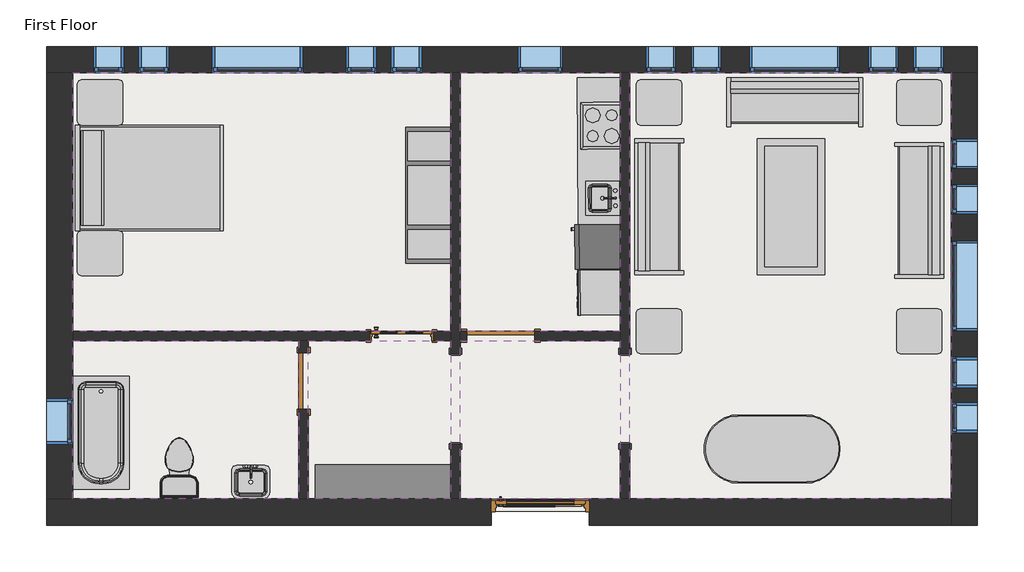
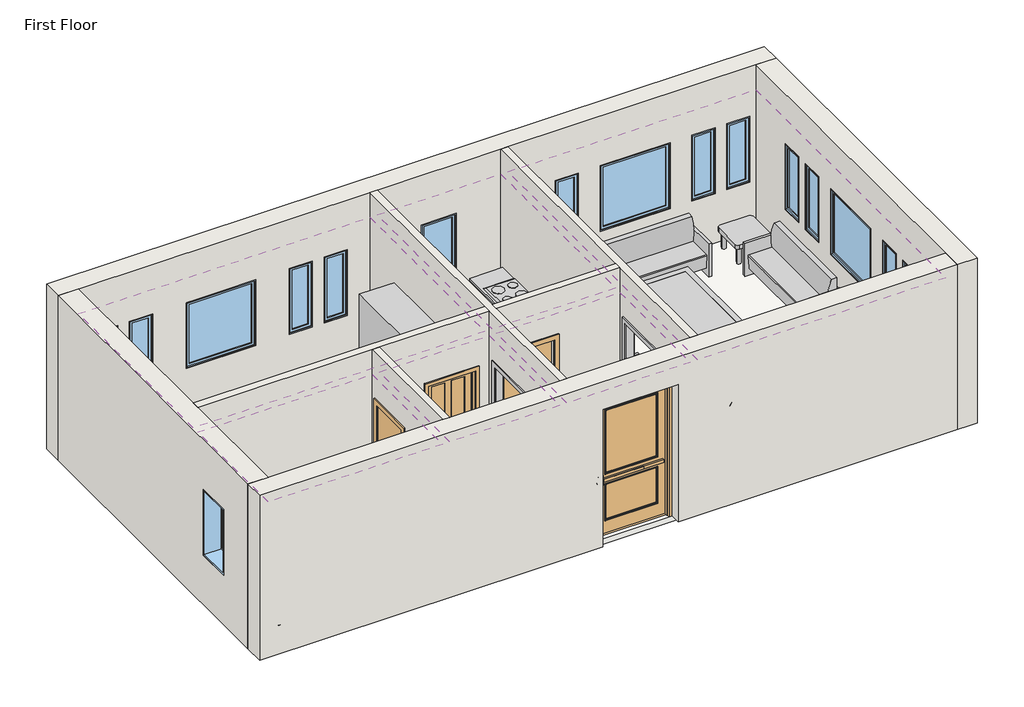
# One storey, incomplete: 17 windows, 15 furniture elements, 8 walls, 6 coverings, 6 proxies, 4 doors, 4 flow terminals, 1 slab.
"""IFC4 building model written with IfcOpenShell, lengths in millimetres."""

from ifc_helpers import new_model, si_unit, frame, origin, place, context, project, spatial, polyline, outline, extrude, faceted_brep, transform, mapped, element, save
from components import proxy_a6faaae8, proxy_45b28599, proxy_a6516e2b, proxy_f44482cc, proxy_c523a7b7, door_c4539963, door_interior_single_4_panel_wood_door_interior_single_4_f9b1e9fa, door_4d6c7550, door_a3eb833a, flow_terminal_871c2e40, flow_terminal_62a433f7, toilet_domestic_3d_toilet_domestic_3d_f7549cf7, toilet_domestic_3d_toilet_domestic_3d_183bbd19, tub_rectangular_3d_tub_rectangular_3d_c56944d8, furniture_096e7f55, furniture_dc2eca4b, furniture_7c473f12, furniture_cf0b6580, furniture_a4ffab56, furniture_cd93a443, furniture_2c34a4f9, furniture_3a588284, window_da97879f, window_d61ef850, window_60baf983, window_6eb97611

model = new_model("IFC4")

# Units and contexts
model_context = context("Model", 3, world=origin())
ifc_project = project(units=[si_unit("LENGTHUNIT", "METRE", prefix="MILLI")], contexts=[model_context])

# Site, building, storey
site = spatial("IfcSite", under=ifc_project)
building = spatial("IfcBuilding", under=site)
storey = spatial("IfcBuildingStorey", under=building, Name="First Floor", Elevation=0.0)

# Proxies
placement = place(None, origin())
proxy_shape = proxy_a6faaae8(model_context)
element("IfcBuildingElementProxy", 1, Name="Cook Top-4 Unit2 : 22\" x 20\"", ObjectType="Cook Top-4 Unit2 : 22\" x 20\"", at=placement, inside=storey, context=model_context, shape_type="MappedRepresentation", body=[
    mapped(proxy_shape, transform((2899.8636904, 5211.0114446, 0.0), x_axis=(0.006017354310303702, -0.9999818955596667, 0.0), y_axis=(0.9999818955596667, 0.006017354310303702, 0.0), z_axis=(0.0, 0.0, 1.0))),
])
proxy_2_shape = proxy_45b28599(model_context)
element("IfcBuildingElementProxy", 2, Name="Dishwasher : 24\" x 24\" x 34\"", ObjectType="Dishwasher : 24\" x 24\" x 34\"", at=placement, inside=storey, context=model_context, shape_type="MappedRepresentation", body=[
    mapped(proxy_2_shape, transform((2619.2452805, 3343.7065262, 0.0), x_axis=(0.006017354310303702, -0.9999818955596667, 0.0), y_axis=(0.9999818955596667, 0.006017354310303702, 0.0), z_axis=(0.0, 0.0, 1.0))),
])
proxy_3_shape = proxy_a6516e2b(model_context)
element("IfcBuildingElementProxy", 3, Name="Kitchenette - Medium : 8'6\"", ObjectType="Kitchenette - Medium : 8'6\"", at=placement, inside=storey, context=model_context, shape_type="MappedRepresentation", body=[
    mapped(proxy_3_shape, transform((3208.4428612, 4583.8946262, 0.0), x_axis=(0.006017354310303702, -0.9999818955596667, 0.0), y_axis=(0.9999818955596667, 0.006017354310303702, 0.0), z_axis=(0.0, 0.0, 1.0))),
])
proxy_4_shape = proxy_f44482cc(model_context)
element("IfcBuildingElementProxy", 4, Name="Passage Opening-Cased : 48\" x 84\"", ObjectType="Passage Opening-Cased : 48\" x 84\"", at=placement, inside=storey, context=model_context, shape_type="MappedRepresentation", body=[
    mapped(proxy_4_shape, transform((3208.4428612, 1537.2944757, 0.0), x_axis=(0.0, 1.0, 0.0), y_axis=(-1.0, 0.0, 0.0), z_axis=(0.0, 0.0, 1.0))),
])
element("IfcBuildingElementProxy", 5, Name="Passage Opening-Cased : 48\" x 84\"", ObjectType="Passage Opening-Cased : 48\" x 84\"", at=placement, inside=storey, context=model_context, shape_type="MappedRepresentation", body=[
    mapped(proxy_4_shape, transform((922.4428612, 1520.9171623, 0.0), x_axis=(0.0, -1.0, 0.0), y_axis=(1.0, 0.0, 0.0), z_axis=(0.0, 0.0, 1.0))),
])
proxy_5_shape = proxy_c523a7b7(model_context)
element("IfcBuildingElementProxy", 6, Name="Refrigerator : 24\" x 25\" LH", ObjectType="Refrigerator : 24\" x 25\" LH", at=placement, inside=storey, context=model_context, shape_type="MappedRepresentation", body=[
    mapped(proxy_5_shape, transform((2864.0355668, 3578.8163041, 0.0), x_axis=(0.006017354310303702, -0.9999818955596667, 0.0), y_axis=(0.9999818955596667, 0.006017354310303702, 0.0), z_axis=(0.0, 0.0, 1.0))),
])

# Coverings
element("IfcCovering", 7, ObjectType="GWB on Mtl. Stud", at=placement, inside=storey, context=model_context, shape_type="SweptSolid", body=[
    extrude(outline(polyline([(-4235.3446388, 5924.893319), (858.9428612, 5924.893319), (858.9428612, 2441.918319), (-4235.3446388, 2441.918319), (-4235.3446388, 5924.893319)])), frame((0.0, 0.0, 2590.8), z_axis=(0.0, 0.0, 1.0), x_axis=(1.0, 0.0, 0.0)), (0.0, 0.0, 1.0), 107.95),
])
element("IfcCovering", 8, ObjectType="GWB on Mtl. Stud", at=placement, inside=storey, context=model_context, shape_type="SweptSolid", body=[
    extrude(outline(polyline([(985.9428612, 2441.918319), (985.9428612, 5924.893319), (3144.9428612, 5924.893319), (3144.9428612, 2441.918319), (985.9428612, 2441.918319)])), frame((0.0, 0.0, 2590.8), z_axis=(0.0, 0.0, 1.0), x_axis=(1.0, 0.0, 0.0)), (0.0, 0.0, 1.0), 107.95),
])
element("IfcCovering", 9, ObjectType="GWB on Mtl. Stud", at=placement, inside=storey, context=model_context, shape_type="SweptSolid", body=[
    extrude(outline(polyline([(3271.9428612, 181.318319), (3271.9428612, 5924.893319), (7604.2303612, 5924.893319), (7604.2303612, 181.318319), (3271.9428612, 181.318319)])), frame((0.0, 0.0, 2590.8), z_axis=(0.0, 0.0, 1.0), x_axis=(1.0, 0.0, 0.0)), (0.0, 0.0, 1.0), 107.95),
])
element("IfcCovering", 10, ObjectType="GWB on Mtl. Stud", at=placement, inside=storey, context=model_context, shape_type="SweptSolid", body=[
    extrude(outline(polyline([(-1187.3446388, 2314.918319), (-1187.3446388, 181.318319), (-4235.3446388, 181.318319), (-4235.3446388, 2314.918319), (-1187.3446388, 2314.918319)])), frame((0.0, 0.0, 2590.8), z_axis=(0.0, 0.0, 1.0), x_axis=(1.0, 0.0, 0.0)), (0.0, 0.0, 1.0), 107.95),
])
element("IfcCovering", 11, ObjectType="GWB on Mtl. Stud", at=placement, inside=storey, context=model_context, shape_type="SweptSolid", body=[
    extrude(outline(polyline([(858.9428612, 181.318319), (-1060.3446388, 181.318319), (-1060.3446388, 2314.918319), (858.9428612, 2314.918319), (858.9428612, 181.318319)])), frame((0.0, 0.0, 2590.8), z_axis=(0.0, 0.0, 1.0), x_axis=(1.0, 0.0, 0.0)), (0.0, 0.0, 1.0), 107.95),
])
element("IfcCovering", 12, ObjectType="GWB on Mtl. Stud", at=placement, inside=storey, context=model_context, shape_type="SweptSolid", body=[
    extrude(outline(polyline([(3144.9428612, 181.318319), (985.9428612, 181.318319), (985.9428612, 2314.918319), (3144.9428612, 2314.918319), (3144.9428612, 181.318319)])), frame((0.0, 0.0, 2590.8), z_axis=(0.0, 0.0, 1.0), x_axis=(1.0, 0.0, 0.0)), (0.0, 0.0, 1.0), 107.95),
])

# Doors
door_shape = door_c4539963(model_context)
element("IfcDoor", 13, ObjectType="Door-Exterior-Single-Two_Lite : 48\" x 96\"", at=placement, inside=storey, context=model_context, shape_type="MappedRepresentation", body=[
    mapped(door_shape, transform((2065.4428612, -1.244181, 0.0), x_axis=(1.0, 0.0, 0.0), y_axis=(0.0, 1.0, 0.0), z_axis=(0.0, 0.0, 1.0))),
])
door_interior_single_4_panel_wood_door_interior_single_4_shape = door_interior_single_4_panel_wood_door_interior_single_4_f9b1e9fa(model_context)
element("IfcDoor", 14, ObjectType="Door-Interior-Single-4_Panel-Wood : Door-Interior-Single-4_Panel-Wood", at=placement, inside=storey, context=model_context, shape_type="MappedRepresentation", body=[
    mapped(door_interior_single_4_panel_wood_door_interior_single_4_shape, transform((196.9553612, 2381.593319, 0.0), x_axis=(1.0, 0.0, 0.0), y_axis=(0.0, 1.0, 0.0), z_axis=(0.0, 0.0, 1.0))),
])
door_2_shape = door_4d6c7550(model_context)
element("IfcDoor", 15, ObjectType="Single-Flush : 30\" x 84\"", at=placement, inside=storey, context=model_context, shape_type="MappedRepresentation", body=[
    mapped(door_2_shape, transform((-1123.8446388, 1768.818319, 0.0), x_axis=(0.0, 1.0, 0.0), y_axis=(-1.0, 0.0, 0.0), z_axis=(0.0, 0.0, 1.0))),
])
door_3_shape = door_a3eb833a(model_context)
element("IfcDoor", 16, ObjectType="Single-Flush : 36\" x 84\"", at=placement, inside=storey, context=model_context, shape_type="MappedRepresentation", body=[
    mapped(door_3_shape, transform((1532.0428612, 2378.418319, 0.0), x_axis=(-1.0, 0.0, 0.0), y_axis=(0.0, -1.0, 0.0), z_axis=(0.0, 0.0, 1.0))),
])

# Flow terminals
flow_terminal_shape = flow_terminal_871c2e40(model_context)
element("IfcFlowTerminal", 17, ObjectType="Sink Kitchen-Island : 18\" x 18\"", at=placement, inside=storey, context=model_context, shape_type="MappedRepresentation", body=[
    mapped(flow_terminal_shape, transform((2903.3082949, 4248.8039924, -14.4), x_axis=(0.006017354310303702, -0.9999818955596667, 0.0), y_axis=(0.9999818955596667, 0.006017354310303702, 0.0), z_axis=(0.0, 0.0, 1.0))),
])
flow_terminal_2_shape = flow_terminal_62a433f7(model_context)
element("IfcFlowTerminal", 18, ObjectType="Sink Vanity-Square : 20\" x 18\"", at=placement, inside=storey, context=model_context, shape_type="MappedRepresentation", body=[
    mapped(flow_terminal_2_shape, transform((-1850.7338794, 458.3729179, 0.0), x_axis=(1.0, 0.0, 0.0), y_axis=(0.0, 1.0, 0.0), z_axis=(0.0, 0.0, 1.0))),
])
toilet_domestic_3d_toilet_domestic_3d_shape = toilet_domestic_3d_toilet_domestic_3d_f7549cf7(model_context)
toilet_domestic_3d_toilet_domestic_3d_2_shape = toilet_domestic_3d_toilet_domestic_3d_183bbd19(model_context)
element("IfcFlowTerminal", 19, ObjectType="Toilet-Domestic-3D : Toilet-Domestic-3D", at=placement, inside=storey, context=model_context, shape_type="MappedRepresentation", body=[
    mapped(toilet_domestic_3d_toilet_domestic_3d_shape, transform((-2800.2446388, 702.018319, 0.0), x_axis=(-1.0, 0.0, 0.0), y_axis=(0.0, -1.0, 0.0), z_axis=(0.0, 0.0, 1.0))),
    mapped(toilet_domestic_3d_toilet_domestic_3d_2_shape, transform((-2800.2446388, 702.018319, 0.0), x_axis=(-1.0, 0.0, 0.0), y_axis=(0.0, -1.0, 0.0), z_axis=(0.0, 0.0, 1.0))),
])
tub_rectangular_3d_tub_rectangular_3d_shape = tub_rectangular_3d_tub_rectangular_3d_c56944d8(model_context)
element("IfcFlowTerminal", 20, ObjectType="Tub-Rectangular-3D : Tub-Rectangular-3D", at=placement, inside=storey, context=model_context, shape_type="MappedRepresentation", body=[
    mapped(tub_rectangular_3d_tub_rectangular_3d_shape, transform((-4411.5571388, 723.3028503, 0.0), x_axis=(0.0, -1.0, 0.0), y_axis=(1.0, 0.0, 0.0), z_axis=(0.0, 0.0, 1.0))),
])

# Furniture
furniture_shape = furniture_096e7f55(model_context)
element("IfcFurniture", 21, ObjectType="Bed-Shaker : Double 56\" x 78\"", at=placement, inside=storey, context=model_context, shape_type="MappedRepresentation", body=[
    mapped(furniture_shape, transform((-4190.1896154, 4526.4534268, 0.0), x_axis=(-0.00030117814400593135, 0.9999999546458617, 0.0), y_axis=(-0.9999999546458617, -0.00030117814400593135, 0.0), z_axis=(0.0, 0.0, 1.0))),
])
furniture_2_shape = furniture_dc2eca4b(model_context)
element("IfcFurniture", 22, ObjectType="Counter Top w Sink Hole : 24\" Depth", at=placement, inside=storey, context=model_context, shape_type="MappedRepresentation", body=[
    mapped(furniture_2_shape, transform((3207.9843388, 4660.0932466, -14.4), x_axis=(0.006017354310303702, -0.9999818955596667, 0.0), y_axis=(0.9999818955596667, 0.006017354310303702, 0.0), z_axis=(0.0, 0.0, 1.0))),
])
furniture_3_shape = furniture_7c473f12(model_context)
element("IfcFurniture", 23, ObjectType="Dresser : 72\" x 60\" x 18\"", at=placement, inside=storey, context=model_context, shape_type="MappedRepresentation", body=[
    mapped(furniture_3_shape, transform((213.736121, 773.0812731, 0.0), x_axis=(1.0, 0.0, 0.0), y_axis=(0.0, 1.0, 0.0), z_axis=(0.0, 0.0, 1.0))),
])
furniture_4_shape = furniture_cf0b6580(model_context)
element("IfcFurniture", 24, ObjectType="Entertainment Center : 72\" x 72\" x 24\"", at=placement, inside=storey, context=model_context, shape_type="MappedRepresentation", body=[
    mapped(furniture_4_shape, transform((147.7428612, 4272.305819, 0.0), x_axis=(0.0, 1.0, 0.0), y_axis=(-1.0, 0.0, 0.0), z_axis=(0.0, 0.0, 1.0))),
])
furniture_5_shape = furniture_a4ffab56(model_context)
element("IfcFurniture", 25, ObjectType="Sofa : 72\"", at=placement, inside=storey, context=model_context, shape_type="MappedRepresentation", body=[
    mapped(furniture_5_shape, transform((5424.0723694, 5377.3466921, 0.0), x_axis=(1.0, 0.0, 0.0), y_axis=(0.0, 1.0, 0.0), z_axis=(0.0, 0.0, 1.0))),
])
element("IfcFurniture", 26, ObjectType="Sofa : 72\"", at=placement, inside=storey, context=model_context, shape_type="MappedRepresentation", body=[
    mapped(furniture_5_shape, transform((3811.7969596, 4049.5353272, 0.0), x_axis=(0.0, 1.0000000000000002, 0.0), y_axis=(-1.0000000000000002, 0.0, 0.0), z_axis=(0.0, 0.0, 1.0))),
])
element("IfcFurniture", 27, ObjectType="Sofa : 72\"", at=placement, inside=storey, context=model_context, shape_type="MappedRepresentation", body=[
    mapped(furniture_5_shape, transform((7024.6887628, 4139.4763108, 0.0), x_axis=(0.0, -1.0, 0.0), y_axis=(1.0, 0.0, 0.0), z_axis=(0.0, 0.0, 1.0))),
])
furniture_6_shape = furniture_cd93a443(model_context)
element("IfcFurniture", 28, ObjectType="Table-Coffee : 36\" x 72\" x 18\"", at=placement, inside=storey, context=model_context, shape_type="MappedRepresentation", body=[
    mapped(furniture_6_shape, transform((5538.853939, 4101.6400523, 0.0), x_axis=(0.0, 1.0, 0.0), y_axis=(-1.0, 0.0, 0.0), z_axis=(0.0, 0.0, 1.0))),
])
furniture_7_shape = furniture_2c34a4f9(model_context)
element("IfcFurniture", 29, ObjectType="Table-Dining Oval : 36\" x 72\"", at=placement, inside=storey, context=model_context, shape_type="MappedRepresentation", body=[
    mapped(furniture_7_shape, transform((5591.4625333, 1212.5166797, 0.0), x_axis=(1.0, 0.0, 0.0), y_axis=(0.0, 1.0, 0.0), z_axis=(0.0, 0.0, 1.0))),
])
furniture_8_shape = furniture_3a588284(model_context)
element("IfcFurniture", 30, ObjectType="Table-End : 24\" x 24\"", at=placement, inside=storey, context=model_context, shape_type="MappedRepresentation", body=[
    mapped(furniture_8_shape, transform((-4175.5782691, 5371.1007905, 0.0), x_axis=(1.0, 0.0, 0.0), y_axis=(0.0, 1.0, 0.0), z_axis=(0.0, 0.0, 1.0))),
])
element("IfcFurniture", 31, ObjectType="Table-End : 24\" x 24\"", at=placement, inside=storey, context=model_context, shape_type="MappedRepresentation", body=[
    mapped(furniture_8_shape, transform((-4175.5782691, 3339.0089188, 0.0), x_axis=(1.0, 0.0, 0.0), y_axis=(0.0, 1.0, 0.0), z_axis=(0.0, 0.0, 1.0))),
])
element("IfcFurniture", 32, ObjectType="Table-End : 24\" x 24\"", at=placement, inside=storey, context=model_context, shape_type="MappedRepresentation", body=[
    mapped(furniture_8_shape, transform((3357.1092309, 5371.1007905, 0.0), x_axis=(1.0, 0.0, 0.0), y_axis=(0.0, 1.0, 0.0), z_axis=(0.0, 0.0, 1.0))),
])
element("IfcFurniture", 33, ObjectType="Table-End : 24\" x 24\"", at=placement, inside=storey, context=model_context, shape_type="MappedRepresentation", body=[
    mapped(furniture_8_shape, transform((3357.1092309, 2289.518319, 0.0), x_axis=(1.0, 0.0, 0.0), y_axis=(0.0, 1.0, 0.0), z_axis=(0.0, 0.0, 1.0))),
])
element("IfcFurniture", 34, ObjectType="Table-End : 24\" x 24\"", at=placement, inside=storey, context=model_context, shape_type="MappedRepresentation", body=[
    mapped(furniture_8_shape, transform((6862.3092309, 2289.518319, 0.0), x_axis=(1.0, 0.0, 0.0), y_axis=(0.0, 1.0, 0.0), z_axis=(0.0, 0.0, 1.0))),
])
element("IfcFurniture", 35, ObjectType="Table-End : 24\" x 24\"", at=placement, inside=storey, context=model_context, shape_type="MappedRepresentation", body=[
    mapped(furniture_8_shape, transform((6862.3092309, 5371.1007905, 0.0), x_axis=(1.0, 0.0, 0.0), y_axis=(0.0, 1.0, 0.0), z_axis=(0.0, 0.0, 1.0))),
])

# Slab
element("IfcSlab", 36, ObjectType="LW Concrete on Metal Deck", at=placement, inside=storey, context=model_context, shape_type="SweptSolid", body=[
    extrude(outline(polyline([(7769.3303612, 6089.993319), (7769.3303612, 16.218319), (-4400.4446388, 16.218319), (-4400.4446388, 6089.993319), (7769.3303612, 6089.993319)])), frame((0.0, 0.0, -104.775), z_axis=(0.0, 0.0, 1.0), x_axis=(1.0, 0.0, 0.0)), (0.0, 0.0, 1.0), 104.775),
])

# Walls
element("IfcWall", 37, ObjectType="Exterior - Brick on Mtl. Stud", at=placement, inside=storey, context=model_context, shape_type="Brep", body=[
    faceted_brep([(-4587.7696388, 5924.893319, 0.0), (-4400.4446388, 5924.893319, 0.0), (-4235.3446388, 5924.893319, 0.0), (858.9428612, 5924.893319, 0.0), (985.9428612, 5924.893319, 0.0), (3144.9428612, 5924.893319, 0.0), (3271.9428612, 5924.893319, 0.0), (7604.2303612, 5924.893319, 0.0), (7769.3303612, 5924.893319, 0.0), (7956.6553612, 5924.893319, 0.0), (7956.6553612, 5924.893319, 3048.0), (7604.2303612, 5924.893319, 3048.0), (3271.9428612, 5924.893319, 3048.0), (3144.9428612, 5924.893319, 3048.0), (985.9428612, 5924.893319, 3048.0), (858.9428612, 5924.893319, 3048.0), (-4235.3446388, 5924.893319, 3048.0), (-4587.7696388, 5924.893319, 3048.0), (1760.6428612, 5924.893319, 2133.6), (2370.2428612, 5924.893319, 2133.6), (2370.2428612, 5924.893319, 914.4), (1760.6428612, 5924.893319, 914.4), (-2354.1571388, 5924.893319, 2133.6), (-1134.9571388, 5924.893319, 2133.6), (-1134.9571388, 5924.893319, 914.4), (-2354.1571388, 5924.893319, 914.4), (4884.8428612, 5924.893319, 2133.6), (6104.0428612, 5924.893319, 2133.6), (6104.0428612, 5924.893319, 914.4), (4884.8428612, 5924.893319, 914.4), (-3954.3571388, 5924.893319, 2133.6), (-3547.9571388, 5924.893319, 2133.6), (-3547.9571388, 5924.893319, 914.4), (-3954.3571388, 5924.893319, 914.4), (-3344.7571388, 5924.893319, 2133.6), (-2938.3571388, 5924.893319, 2133.6), (-2938.3571388, 5924.893319, 914.4), (-3344.7571388, 5924.893319, 914.4), (-144.3571388, 5924.893319, 2133.6), (-144.3571388, 5924.893319, 914.4), (-550.7571388, 5924.893319, 914.4), (-550.7571388, 5924.893319, 2133.6), (465.2428612, 5924.893319, 2133.6), (465.2428612, 5924.893319, 914.4), (58.8428612, 5924.893319, 914.4), (58.8428612, 5924.893319, 2133.6), (4097.4428612, 5924.893319, 2133.6), (4503.8428612, 5924.893319, 2133.6), (4503.8428612, 5924.893319, 914.4), (4097.4428612, 5924.893319, 914.4), (3487.8428612, 5924.893319, 2133.6), (3894.2428612, 5924.893319, 2133.6), (3894.2428612, 5924.893319, 914.4), (3487.8428612, 5924.893319, 914.4), (6891.4428612, 5924.893319, 2133.6), (6891.4428612, 5924.893319, 914.4), (6485.0428612, 5924.893319, 914.4), (6485.0428612, 5924.893319, 2133.6), (7501.0428612, 5924.893319, 2133.6), (7501.0428612, 5924.893319, 914.4), (7094.6428612, 5924.893319, 914.4), (7094.6428612, 5924.893319, 2133.6), (-4587.7696388, 6277.318319, 0.0), (-4587.7696388, 6277.318319, 3048.0), (7956.6553612, 6277.318319, 3048.0), (7956.6553612, 6277.318319, 0.0), (7769.3303612, 6277.318319, 0.0), (-4400.4446388, 6277.318319, 0.0), (1760.6428612, 6277.318319, 2133.6), (1760.6428612, 6277.318319, 914.4), (2370.2428612, 6277.318319, 914.4), (2370.2428612, 6277.318319, 2133.6), (-2354.1571388, 6277.318319, 2133.6), (-2354.1571388, 6277.318319, 914.4), (-1134.9571388, 6277.318319, 914.4), (-1134.9571388, 6277.318319, 2133.6), (4884.8428612, 6277.318319, 2133.6), (4884.8428612, 6277.318319, 914.4), (6104.0428612, 6277.318319, 914.4), (6104.0428612, 6277.318319, 2133.6), (-3954.3571388, 6277.318319, 2133.6), (-3954.3571388, 6277.318319, 914.4), (-3547.9571388, 6277.318319, 914.4), (-3547.9571388, 6277.318319, 2133.6), (-3344.7571388, 6277.318319, 2133.6), (-3344.7571388, 6277.318319, 914.4), (-2938.3571388, 6277.318319, 914.4), (-2938.3571388, 6277.318319, 2133.6), (-144.3571388, 6277.318319, 2133.6), (-550.7571388, 6277.318319, 2133.6), (-550.7571388, 6277.318319, 914.4), (-144.3571388, 6277.318319, 914.4), (465.2428612, 6277.318319, 2133.6), (58.8428612, 6277.318319, 2133.6), (58.8428612, 6277.318319, 914.4), (465.2428612, 6277.318319, 914.4), (4097.4428612, 6277.318319, 2133.6), (4097.4428612, 6277.318319, 914.4), (4503.8428612, 6277.318319, 914.4), (4503.8428612, 6277.318319, 2133.6), (3487.8428612, 6277.318319, 2133.6), (3487.8428612, 6277.318319, 914.4), (3894.2428612, 6277.318319, 914.4), (3894.2428612, 6277.318319, 2133.6), (6891.4428612, 6277.318319, 2133.6), (6485.0428612, 6277.318319, 2133.6), (6485.0428612, 6277.318319, 914.4), (6891.4428612, 6277.318319, 914.4), (7501.0428612, 6277.318319, 2133.6), (7094.6428612, 6277.318319, 2133.6), (7094.6428612, 6277.318319, 914.4), (7501.0428612, 6277.318319, 914.4), (7956.6553612, 6089.993319, 0.0), (-4587.7696388, 6089.993319, 0.0), (-4400.4446388, 6089.993319, 0.0), (7769.3303612, 6089.993319, 0.0)], [[[0, 1, 2, 3, 4, 5, 6, 7, 8, 9, 10, 11, 12, 13, 14, 15, 16, 17], [18, 19, 20, 21], [22, 23, 24, 25], [26, 27, 28, 29], [30, 31, 32, 33], [34, 35, 36, 37], [38, 39, 40, 41], [42, 43, 44, 45], [46, 47, 48, 49], [50, 51, 52, 53], [54, 55, 56, 57], [58, 59, 60, 61]], [[62, 63, 64, 65, 66, 67], [68, 69, 70, 71], [72, 73, 74, 75], [76, 77, 78, 79], [80, 81, 82, 83], [84, 85, 86, 87], [88, 89, 90, 91], [92, 93, 94, 95], [96, 97, 98, 99], [100, 101, 102, 103], [104, 105, 106, 107], [108, 109, 110, 111]], [[17, 16, 15, 14, 13, 12, 11, 10, 64, 63]], [[10, 9, 112, 65, 64]], [[0, 17, 63, 62, 113]], [[69, 68, 18, 21]], [[70, 69, 21, 20]], [[71, 70, 20, 19]], [[68, 71, 19, 18]], [[73, 72, 22, 25]], [[74, 73, 25, 24]], [[75, 74, 24, 23]], [[72, 75, 23, 22]], [[77, 76, 26, 29]], [[78, 77, 29, 28]], [[79, 78, 28, 27]], [[76, 79, 27, 26]], [[81, 80, 30, 33]], [[82, 81, 33, 32]], [[83, 82, 32, 31]], [[80, 83, 31, 30]], [[85, 84, 34, 37]], [[86, 85, 37, 36]], [[87, 86, 36, 35]], [[84, 87, 35, 34]], [[39, 38, 88, 91]], [[40, 39, 91, 90]], [[41, 40, 90, 89]], [[38, 41, 89, 88]], [[43, 42, 92, 95]], [[44, 43, 95, 94]], [[45, 44, 94, 93]], [[42, 45, 93, 92]], [[97, 96, 46, 49]], [[98, 97, 49, 48]], [[99, 98, 48, 47]], [[96, 99, 47, 46]], [[101, 100, 50, 53]], [[102, 101, 53, 52]], [[103, 102, 52, 51]], [[100, 103, 51, 50]], [[55, 54, 104, 107]], [[56, 55, 107, 106]], [[57, 56, 106, 105]], [[54, 57, 105, 104]], [[59, 58, 108, 111]], [[60, 59, 111, 110]], [[61, 60, 110, 109]], [[58, 61, 109, 108]], [[1, 0, 113, 114]], [[113, 62, 67, 114]], [[9, 8, 115, 112]], [[67, 66, 115, 114]], [[66, 65, 112, 115]], [[8, 7, 6, 5, 4, 3, 2, 1, 114, 115]]]),
])
element("IfcWall", 38, ObjectType="Exterior - Brick on Mtl. Stud", at=placement, inside=storey, context=model_context, shape_type="Brep", body=[
    faceted_brep([(7604.2303612, 5924.893319, 0.0), (7604.2303612, 181.318319, 0.0), (7604.2303612, 16.218319, 0.0), (7604.2303612, -171.106681, 0.0), (7604.2303612, -171.106681, 3048.0), (7604.2303612, 181.318319, 3048.0), (7604.2303612, 5924.893319, 3048.0), (7604.2303612, 3662.705819, 2133.6), (7604.2303612, 2443.505819, 2133.6), (7604.2303612, 2443.505819, 914.4), (7604.2303612, 3662.705819, 914.4), (7604.2303612, 4424.705819, 2133.6), (7604.2303612, 4018.305819, 2133.6), (7604.2303612, 4018.305819, 914.4), (7604.2303612, 4424.705819, 914.4), (7604.2303612, 5034.305819, 2133.6), (7604.2303612, 4627.905819, 2133.6), (7604.2303612, 4627.905819, 914.4), (7604.2303612, 5034.305819, 914.4), (7604.2303612, 1681.505819, 2133.6), (7604.2303612, 1681.505819, 914.4), (7604.2303612, 2087.905819, 914.4), (7604.2303612, 2087.905819, 2133.6), (7604.2303612, 1071.905819, 2133.6), (7604.2303612, 1071.905819, 914.4), (7604.2303612, 1478.305819, 914.4), (7604.2303612, 1478.305819, 2133.6), (7956.6553612, 5924.893319, 0.0), (7956.6553612, 5924.893319, 3048.0), (7956.6553612, -171.106681, 3048.0), (7956.6553612, -171.106681, 0.0), (7956.6553612, 16.218319, 0.0), (7956.6553612, 3662.705819, 2133.6), (7956.6553612, 3662.705819, 914.4), (7956.6553612, 2443.505819, 914.4), (7956.6553612, 2443.505819, 2133.6), (7956.6553612, 4424.705819, 2133.6), (7956.6553612, 4424.705819, 914.4), (7956.6553612, 4018.305819, 914.4), (7956.6553612, 4018.305819, 2133.6), (7956.6553612, 5034.305819, 2133.6), (7956.6553612, 5034.305819, 914.4), (7956.6553612, 4627.905819, 914.4), (7956.6553612, 4627.905819, 2133.6), (7956.6553612, 1681.505819, 2133.6), (7956.6553612, 2087.905819, 2133.6), (7956.6553612, 2087.905819, 914.4), (7956.6553612, 1681.505819, 914.4), (7956.6553612, 1071.905819, 2133.6), (7956.6553612, 1478.305819, 2133.6), (7956.6553612, 1478.305819, 914.4), (7956.6553612, 1071.905819, 914.4), (7769.3303612, 5924.893319, 0.0), (7769.3303612, -171.106681, 0.0), (7769.3303612, 16.218319, 0.0)], [[[0, 1, 2, 3, 4, 5, 6], [7, 8, 9, 10], [11, 12, 13, 14], [15, 16, 17, 18], [19, 20, 21, 22], [23, 24, 25, 26]], [[27, 28, 29, 30, 31], [32, 33, 34, 35], [36, 37, 38, 39], [40, 41, 42, 43], [44, 45, 46, 47], [48, 49, 50, 51]], [[6, 5, 4, 29, 28]], [[0, 6, 28, 27, 52]], [[4, 3, 53, 30, 29]], [[33, 32, 7, 10]], [[34, 33, 10, 9]], [[35, 34, 9, 8]], [[32, 35, 8, 7]], [[37, 36, 11, 14]], [[38, 37, 14, 13]], [[39, 38, 13, 12]], [[36, 39, 12, 11]], [[41, 40, 15, 18]], [[42, 41, 18, 17]], [[43, 42, 17, 16]], [[40, 43, 16, 15]], [[20, 19, 44, 47]], [[21, 20, 47, 46]], [[22, 21, 46, 45]], [[19, 22, 45, 44]], [[24, 23, 48, 51]], [[25, 24, 51, 50]], [[26, 25, 50, 49]], [[23, 26, 49, 48]], [[52, 27, 31, 54]], [[3, 2, 54, 53]], [[54, 31, 30, 53]], [[2, 1, 0, 52, 54]]]),
])
element("IfcWall", 39, ObjectType="Exterior - Brick on Mtl. Stud", at=placement, inside=storey, context=model_context, shape_type="Brep", body=[
    faceted_brep([(-4587.7696388, 181.318319, 3048.0), (-4235.3446388, 181.318319, 3048.0), (-1187.3446388, 181.318319, 3048.0), (-1060.3446388, 181.318319, 3048.0), (858.9428612, 181.318319, 3048.0), (985.9428612, 181.318319, 3048.0), (3144.9428612, 181.318319, 3048.0), (3271.9428612, 181.318319, 3048.0), (7604.2303612, 181.318319, 3048.0), (7604.2303612, 181.318319, 0.0), (3271.9428612, 181.318319, 0.0), (3144.9428612, 181.318319, 0.0), (2725.8428612, 181.318319, 0.0), (2725.8428612, 181.318319, 2540.0), (1405.0428612, 181.318319, 2540.0), (1405.0428612, 181.318319, 0.0), (985.9428612, 181.318319, 0.0), (858.9428612, 181.318319, 0.0), (-1060.3446388, 181.318319, 0.0), (-1187.3446388, 181.318319, 0.0), (-4235.3446388, 181.318319, 0.0), (-4587.7696388, 181.318319, 0.0), (7604.2303612, -171.106681, 3048.0), (-4587.7696388, -171.106681, 3048.0), (-4587.7696388, -171.106681, 0.0), (1405.0428612, -171.106681, 0.0), (1405.0428612, -171.106681, 2540.0), (2725.8428612, -171.106681, 2540.0), (2725.8428612, -171.106681, 0.0), (7604.2303612, -171.106681, 0.0)], [[[0, 1, 2, 3, 4, 5, 6, 7, 8, 9, 10, 11, 12, 13, 14, 15, 16, 17, 18, 19, 20, 21]], [[22, 23, 24, 25, 26, 27, 28, 29]], [[9, 29, 28, 12, 11, 10]], [[24, 21, 20, 19, 18, 17, 16, 15, 25]], [[8, 7, 6, 5, 4, 3, 2, 1, 0, 23, 22]], [[9, 8, 22, 29]], [[0, 21, 24, 23]], [[27, 13, 12, 28]], [[13, 27, 26, 14]], [[14, 26, 25, 15]]]),
])
element("IfcWall", 40, ObjectType="Exterior - Brick on Mtl. Stud", at=placement, inside=storey, context=model_context, shape_type="Brep", body=[
    faceted_brep([(-4235.3446388, 181.318319, 0.0), (-4235.3446388, 2314.918319, 0.0), (-4235.3446388, 2441.918319, 0.0), (-4235.3446388, 5924.893319, 0.0), (-4235.3446388, 5924.893319, 3048.0), (-4235.3446388, 2441.918319, 3048.0), (-4235.3446388, 2314.918319, 3048.0), (-4235.3446388, 181.318319, 3048.0), (-4235.3446388, 919.505819, 2133.6), (-4235.3446388, 1529.105819, 2133.6), (-4235.3446388, 1529.105819, 914.4), (-4235.3446388, 919.505819, 914.4), (-4587.7696388, 181.318319, 0.0), (-4587.7696388, 181.318319, 3048.0), (-4587.7696388, 5924.893319, 3048.0), (-4587.7696388, 5924.893319, 0.0), (-4587.7696388, 919.505819, 2133.6), (-4587.7696388, 919.505819, 914.4), (-4587.7696388, 1529.105819, 914.4), (-4587.7696388, 1529.105819, 2133.6), (-4400.4446388, 181.318319, 0.0), (-4400.4446388, 5924.893319, 0.0)], [[[0, 1, 2, 3, 4, 5, 6, 7], [8, 9, 10, 11]], [[12, 13, 14, 15], [16, 17, 18, 19]], [[7, 6, 5, 4, 14, 13]], [[0, 7, 13, 12, 20]], [[4, 3, 21, 15, 14]], [[17, 16, 8, 11]], [[18, 17, 11, 10]], [[19, 18, 10, 9]], [[16, 19, 9, 8]], [[20, 12, 15, 21]], [[3, 2, 1, 0, 20, 21]]]),
])
element("IfcWall", 41, ObjectType="Interior - 5\" Partition (2-hr)", at=placement, inside=storey, context=model_context, shape_type="Brep", body=[
    faceted_brep([(3144.9428612, 5924.893319, 0.0), (3144.9428612, 2441.918319, 0.0), (3144.9428612, 2314.918319, 0.0), (3144.9428612, 2138.705819, 0.0), (3144.9428612, 2138.705819, 2133.6), (3144.9428612, 919.505819, 2133.6), (3144.9428612, 919.505819, 0.0), (3144.9428612, 181.318319, 0.0), (3144.9428612, 181.318319, 3048.0), (3144.9428612, 2314.918319, 3048.0), (3144.9428612, 2441.918319, 3048.0), (3144.9428612, 5924.893319, 3048.0), (3271.9428612, 2138.705819, 2133.6), (3271.9428612, 2138.705819, 0.0), (3271.9428612, 5924.893319, 0.0), (3271.9428612, 5924.893319, 3048.0), (3271.9428612, 181.318319, 3048.0), (3271.9428612, 181.318319, 0.0), (3271.9428612, 919.505819, 0.0), (3271.9428612, 919.505819, 2133.6)], [[[0, 1, 2, 3, 4, 5, 6, 7, 8, 9, 10, 11]], [[12, 13, 14, 15, 16, 17, 18, 19]], [[18, 17, 7, 6]], [[14, 13, 3, 2, 1, 0]], [[11, 10, 9, 8, 16, 15]], [[0, 11, 15, 14]], [[8, 7, 17, 16]], [[6, 5, 19, 18]], [[4, 3, 13, 12]], [[5, 4, 12, 19]]]),
])
element("IfcWall", 42, ObjectType="Interior - 5\" Partition (2-hr)", at=placement, inside=storey, context=model_context, shape_type="Brep", body=[
    faceted_brep([(858.9428612, 919.505819, 2133.6), (858.9428612, 919.505819, 0.0), (858.9428612, 181.318319, 0.0), (858.9428612, 181.318319, 3048.0), (858.9428612, 2314.918319, 3048.0), (858.9428612, 2441.918319, 3048.0), (858.9428612, 5924.893319, 3048.0), (858.9428612, 5924.893319, 0.0), (858.9428612, 2441.918319, 0.0), (858.9428612, 2314.918319, 0.0), (858.9428612, 2138.705819, 0.0), (858.9428612, 2138.705819, 2133.6), (985.9428612, 181.318319, 0.0), (985.9428612, 919.505819, 0.0), (985.9428612, 919.505819, 2133.6), (985.9428612, 2138.705819, 2133.6), (985.9428612, 2138.705819, 0.0), (985.9428612, 2314.918319, 0.0), (985.9428612, 2441.918319, 0.0), (985.9428612, 5924.893319, 0.0), (985.9428612, 5924.893319, 3048.0), (985.9428612, 2441.918319, 3048.0), (985.9428612, 2314.918319, 3048.0), (985.9428612, 181.318319, 3048.0)], [[[0, 1, 2, 3, 4, 5, 6, 7, 8, 9, 10, 11]], [[12, 13, 14, 15, 16, 17, 18, 19, 20, 21, 22, 23]], [[2, 1, 13, 12]], [[10, 9, 8, 7, 19, 18, 17, 16]], [[6, 5, 4, 3, 23, 22, 21, 20]], [[7, 6, 20, 19]], [[3, 2, 12, 23]], [[16, 15, 11, 10]], [[14, 13, 1, 0]], [[15, 14, 0, 11]]]),
])
element("IfcWall", 43, ObjectType="Interior - 5\" Partition (2-hr)", at=placement, inside=storey, context=model_context, shape_type="Brep", body=[
    faceted_brep([(-4235.3446388, 2314.918319, 3048.0), (-4235.3446388, 2314.918319, 0.0), (-1187.3446388, 2314.918319, 0.0), (-1060.3446388, 2314.918319, 0.0), (-234.8446388, 2314.918319, 0.0), (-234.8446388, 2314.918319, 2057.4), (628.7553612, 2314.918319, 2057.4), (628.7553612, 2314.918319, 0.0), (858.9428612, 2314.918319, 0.0), (858.9428612, 2314.918319, 3048.0), (-1060.3446388, 2314.918319, 3048.0), (-1187.3446388, 2314.918319, 3048.0), (-4235.3446388, 2441.918319, 0.0), (-4235.3446388, 2441.918319, 3048.0), (858.9428612, 2441.918319, 3048.0), (858.9428612, 2441.918319, 0.0), (628.7553612, 2441.918319, 0.0), (628.7553612, 2441.918319, 2057.4), (-234.8446388, 2441.918319, 2057.4), (-234.8446388, 2441.918319, 0.0)], [[[0, 1, 2, 3, 4, 5, 6, 7, 8, 9, 10, 11]], [[12, 13, 14, 15, 16, 17, 18, 19]], [[1, 12, 19, 4, 3, 2]], [[7, 16, 15, 8]], [[13, 0, 11, 10, 9, 14]], [[1, 0, 13, 12]], [[9, 8, 15, 14]], [[6, 17, 16, 7]], [[17, 6, 5, 18]], [[18, 5, 4, 19]]]),
    faceted_brep([(3144.9428612, 2314.918319, 0.0), (3144.9428612, 2314.918319, 3048.0), (985.9428612, 2314.918319, 3048.0), (985.9428612, 2314.918319, 0.0), (1074.8428612, 2314.918319, 0.0), (1074.8428612, 2314.918319, 2133.6), (1989.2428612, 2314.918319, 2133.6), (1989.2428612, 2314.918319, 0.0), (3144.9428612, 2441.918319, 3048.0), (3144.9428612, 2441.918319, 0.0), (1989.2428612, 2441.918319, 0.0), (1989.2428612, 2441.918319, 2133.6), (1074.8428612, 2441.918319, 2133.6), (1074.8428612, 2441.918319, 0.0), (985.9428612, 2441.918319, 0.0), (985.9428612, 2441.918319, 3048.0)], [[[0, 1, 2, 3, 4, 5, 6, 7]], [[8, 9, 10, 11, 12, 13, 14, 15]], [[9, 0, 7, 10]], [[13, 4, 3, 14]], [[1, 8, 15, 2]], [[1, 0, 9, 8]], [[3, 2, 15, 14]], [[5, 4, 13, 12]], [[6, 5, 12, 11]], [[7, 6, 11, 10]]]),
])
element("IfcWall", 44, ObjectType="Interior - 5\" Partition (2-hr)", at=placement, inside=storey, context=model_context, shape_type="SweptSolid", body=[
    extrude(outline(polyline([(2314.918319, 0.0), (2149.818319, 0.0), (2149.818319, 2133.6), (1387.818319, 2133.6), (1387.818319, 0.0), (181.318319, 0.0), (181.318319, 3048.0), (2314.918319, 3048.0), (2314.918319, 0.0)])), frame((-1187.3446388, 0.0, 0.0), z_axis=(1.0, 0.0, 0.0), x_axis=(0.0, 1.0, 0.0)), (0.0, 0.0, 1.0), 127.0),
])

# Windows
window_shape = window_da97879f(model_context)
element("IfcWindow", 45, ObjectType="Fixed : 16\" x 48\"", at=placement, inside=storey, context=model_context, shape_type="MappedRepresentation", body=[
    mapped(window_shape, transform((-3789.2571388, 6101.105819, 0.0), x_axis=(-1.0, 0.0, 0.0), y_axis=(0.0, -1.0, 0.0), z_axis=(0.0, 0.0, 1.0))),
])
element("IfcWindow", 46, ObjectType="Fixed : 16\" x 48\"", at=placement, inside=storey, context=model_context, shape_type="MappedRepresentation", body=[
    mapped(window_shape, transform((-3179.6571388, 6101.105819, 0.0), x_axis=(-1.0, 0.0, 0.0), y_axis=(0.0, -1.0, 0.0), z_axis=(0.0, 0.0, 1.0))),
])
element("IfcWindow", 47, ObjectType="Fixed : 16\" x 48\"", at=placement, inside=storey, context=model_context, shape_type="MappedRepresentation", body=[
    mapped(window_shape, transform((3652.9428612, 6101.105819, 0.0), x_axis=(-1.0, 0.0, 0.0), y_axis=(0.0, -1.0, 0.0), z_axis=(0.0, 0.0, 1.0))),
])
element("IfcWindow", 48, ObjectType="Fixed : 16\" x 48\"", at=placement, inside=storey, context=model_context, shape_type="MappedRepresentation", body=[
    mapped(window_shape, transform((4262.5428612, 6101.105819, 0.0), x_axis=(-1.0, 0.0, 0.0), y_axis=(0.0, -1.0, 0.0), z_axis=(0.0, 0.0, 1.0))),
])
element("IfcWindow", 49, ObjectType="Fixed : 16\" x 48\"", at=placement, inside=storey, context=model_context, shape_type="MappedRepresentation", body=[
    mapped(window_shape, transform((7780.4428612, 4869.205819, 0.0), x_axis=(0.0, 1.0, 0.0), y_axis=(-1.0, 0.0, 0.0), z_axis=(0.0, 0.0, 1.0))),
])
element("IfcWindow", 50, ObjectType="Fixed : 16\" x 48\"", at=placement, inside=storey, context=model_context, shape_type="MappedRepresentation", body=[
    mapped(window_shape, transform((7780.4428612, 4259.605819, 0.0), x_axis=(0.0, 1.0, 0.0), y_axis=(-1.0, 0.0, 0.0), z_axis=(0.0, 0.0, 1.0))),
])
window_2_shape = window_d61ef850(model_context)
element("IfcWindow", 51, ObjectType="Fixed : 16\" x 48\"", at=placement, inside=storey, context=model_context, shape_type="MappedRepresentation", body=[
    mapped(window_2_shape, transform((300.1428612, 6101.105819, 0.0), x_axis=(1.0, 0.0, 0.0), y_axis=(0.0, 1.0, 0.0), z_axis=(0.0, 0.0, 1.0))),
])
element("IfcWindow", 52, ObjectType="Fixed : 16\" x 48\"", at=placement, inside=storey, context=model_context, shape_type="MappedRepresentation", body=[
    mapped(window_2_shape, transform((-309.4571388, 6101.105819, 0.0), x_axis=(1.0, 0.0, 0.0), y_axis=(0.0, 1.0, 0.0), z_axis=(0.0, 0.0, 1.0))),
])
element("IfcWindow", 53, ObjectType="Fixed : 16\" x 48\"", at=placement, inside=storey, context=model_context, shape_type="MappedRepresentation", body=[
    mapped(window_2_shape, transform((7335.9428612, 6101.105819, 0.0), x_axis=(1.0, 0.0, 0.0), y_axis=(0.0, 1.0, 0.0), z_axis=(0.0, 0.0, 1.0))),
])
element("IfcWindow", 54, ObjectType="Fixed : 16\" x 48\"", at=placement, inside=storey, context=model_context, shape_type="MappedRepresentation", body=[
    mapped(window_2_shape, transform((6726.3428612, 6101.105819, 0.0), x_axis=(1.0, 0.0, 0.0), y_axis=(0.0, 1.0, 0.0), z_axis=(0.0, 0.0, 1.0))),
])
element("IfcWindow", 55, ObjectType="Fixed : 16\" x 48\"", at=placement, inside=storey, context=model_context, shape_type="MappedRepresentation", body=[
    mapped(window_2_shape, transform((7780.4428612, 1237.005819, 0.0), x_axis=(0.0, -1.0, 0.0), y_axis=(1.0, 0.0, 0.0), z_axis=(0.0, 0.0, 1.0))),
])
element("IfcWindow", 56, ObjectType="Fixed : 16\" x 48\"", at=placement, inside=storey, context=model_context, shape_type="MappedRepresentation", body=[
    mapped(window_2_shape, transform((7780.4428612, 1846.605819, 0.0), x_axis=(0.0, -1.0, 0.0), y_axis=(1.0, 0.0, 0.0), z_axis=(0.0, 0.0, 1.0))),
])
window_3_shape = window_60baf983(model_context)
element("IfcWindow", 57, ObjectType="Fixed : 24\" x 48\"", at=placement, inside=storey, context=model_context, shape_type="MappedRepresentation", body=[
    mapped(window_3_shape, transform((2027.3428612, 6101.105819, 0.0), x_axis=(-1.0, 0.0, 0.0), y_axis=(0.0, -1.0, 0.0), z_axis=(0.0, 0.0, 1.0))),
])
element("IfcWindow", 58, ObjectType="Fixed : 24\" x 48\"", at=placement, inside=storey, context=model_context, shape_type="MappedRepresentation", body=[
    mapped(window_3_shape, transform((-4411.5571388, 1186.205819, 0.0), x_axis=(0.0, -1.0, 0.0), y_axis=(1.0, 0.0, 0.0), z_axis=(0.0, 0.0, 1.0))),
])
window_4_shape = window_6eb97611(model_context)
element("IfcWindow", 59, ObjectType="Fixed : 48\" x 48\"", at=placement, inside=storey, context=model_context, shape_type="MappedRepresentation", body=[
    mapped(window_4_shape, transform((-1782.6571388, 6101.105819, 0.0), x_axis=(-1.0, 0.0, 0.0), y_axis=(0.0, -1.0, 0.0), z_axis=(0.0, 0.0, 1.0))),
])
element("IfcWindow", 60, ObjectType="Fixed : 48\" x 48\"", at=placement, inside=storey, context=model_context, shape_type="MappedRepresentation", body=[
    mapped(window_4_shape, transform((5456.3428612, 6101.105819, 0.0), x_axis=(-1.0, 0.0, 0.0), y_axis=(0.0, -1.0, 0.0), z_axis=(0.0, 0.0, 1.0))),
])
element("IfcWindow", 61, ObjectType="Fixed : 48\" x 48\"", at=placement, inside=storey, context=model_context, shape_type="MappedRepresentation", body=[
    mapped(window_4_shape, transform((7780.4428612, 3091.205819, 0.0), x_axis=(0.0, 1.0, 0.0), y_axis=(-1.0, 0.0, 0.0), z_axis=(0.0, 0.0, 1.0))),
])

save(model, "model.ifc")
